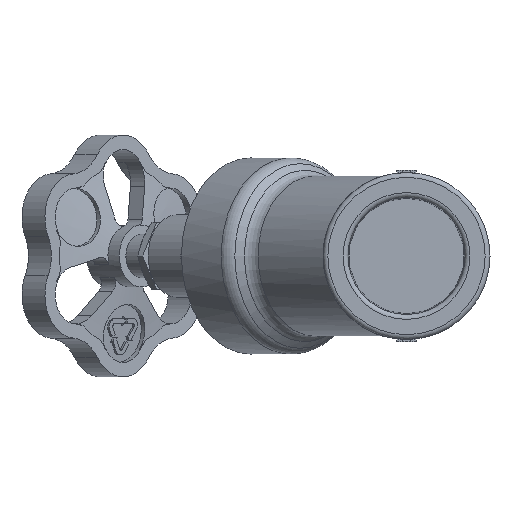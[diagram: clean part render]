
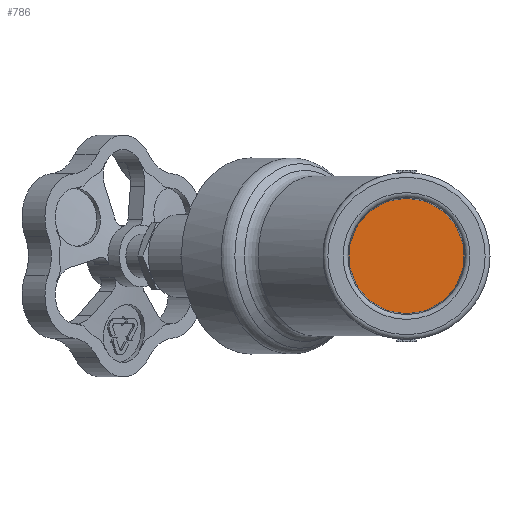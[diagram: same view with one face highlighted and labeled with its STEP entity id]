
A CAD part, left-side view. The second image highlights one B-rep face of the part: STEP entity #786.
In plain terms, the highlighted planar face has unit normal (-1, 0, 0).
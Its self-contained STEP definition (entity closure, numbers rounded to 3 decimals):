
#786=ADVANCED_FACE('',(#5309),#5311,.T.);
#5309=FACE_BOUND('',#5310,.T.);
#5310=EDGE_LOOP('',(#10250));
#5311=PLANE('',#5312);
#5312=AXIS2_PLACEMENT_3D('',#5313,#5314,#5315);
#5313=CARTESIAN_POINT('',(-10.,0.,0.));
#5314=DIRECTION('',(-1.,0.,0.));
#5315=DIRECTION('',(0.,0.,1.));
#10250=ORIENTED_EDGE('',*,*,#12258,.F.);
#12258=EDGE_CURVE('',#15204,#15204,#15205,.T.);
#15204=VERTEX_POINT('',#30084);
#15205=CIRCLE('',#30085,11.95);
#30084=CARTESIAN_POINT('',(-10.,0.,11.95));
#30085=AXIS2_PLACEMENT_3D('',#30086,#30087,#30088);
#30086=CARTESIAN_POINT('',(-10.,0.,0.));
#30087=DIRECTION('',(1.,0.,0.));
#30088=DIRECTION('',(0.,0.,1.));
